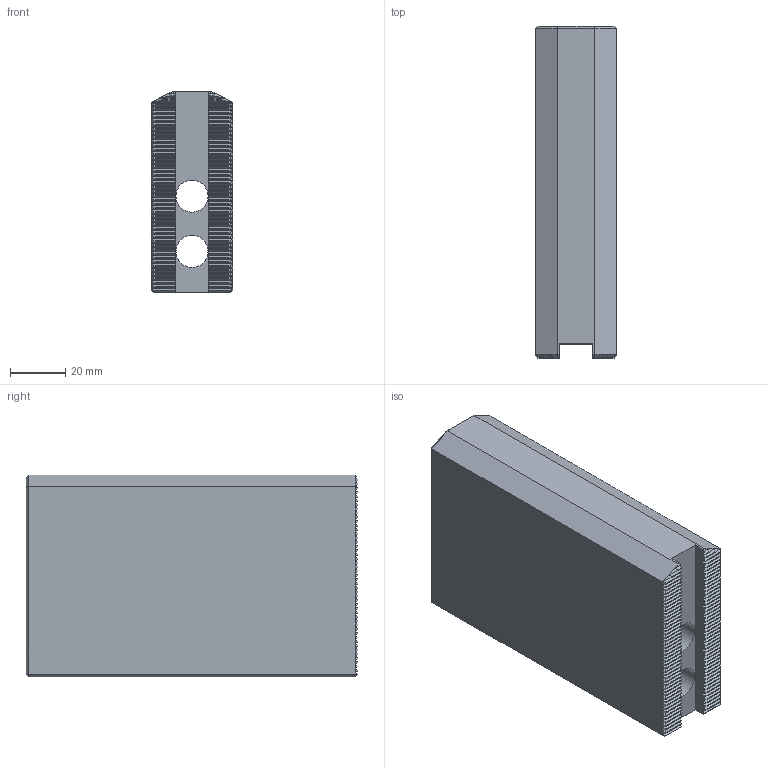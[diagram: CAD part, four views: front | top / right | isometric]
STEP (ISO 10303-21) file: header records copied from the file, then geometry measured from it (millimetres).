
FILE_DESCRIPTION(/* description */ (''),/* implementation_level */ '2;1');
FILE_NAME(/* name */ 'SC-06H120.stp',/* time_stamp */ '2024-09-11T16:39:52+03:00',/* author */ ('KanaanMD'),/* organization */ (''),/* preprocessor_version */ 'ST-DEVELOPER v19.2',/* originating_system */ 'Autodesk Inventor 2024',/* authorisation */ '');
FILE_SCHEMA (('AUTOMOTIVE_DESIGN { 1 0 10303 214 3 1 1 }'));
Length unit declared in the file: millimetre
Products named in the file (1): SC-06H120
Bounding box: 29.5 x 120 x 73 mm (x, y, z)
Volume: 200378.9 mm3; surface area: 40525.6 mm2
Topology: 1 solids, 1 shells, 420 faces, 1036 edges, 620 vertices
Faces by surface type: plane 414, cylinder 4, cone 2
Full cylindrical faces by diameter (mm): 11.6 x2, 17 x2
Entity records: 11927 total; most frequent: CARTESIAN_POINT 2077, ORIENTED_EDGE 2072, DIRECTION 1890, EDGE_CURVE 1036, LINE 1024, VECTOR 1024, VERTEX_POINT 620, AXIS2_PLACEMENT_3D 433
